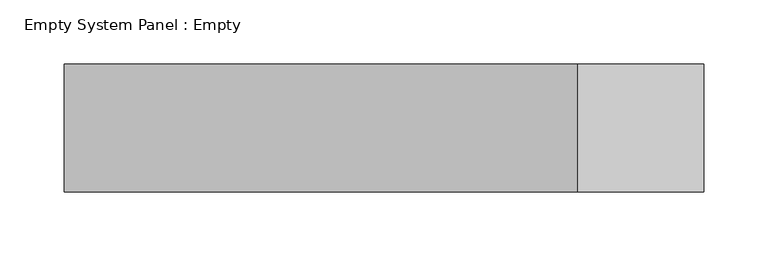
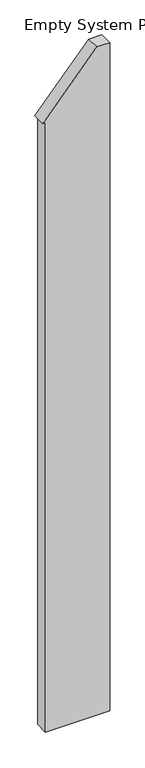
"""IFC4 building model written with IfcOpenShell, lengths in millimetres: plate geometry, Empty System Panel : Empty."""

from ifc_helpers import new_model, si_unit, frame, origin, place, context, project, spatial, polyline, outline, extrude, source, transform, mapped, element, save


def empty_system_panel_empty_ddcded80(model_context):
    return source(origin(), model_context, "Body", "SweptSolid", [
        extrude(outline(polyline([(0.0, -229.7473037), (0.0, 249.7473037), (5261.0527142, 249.7473037), (5261.0527142, 151.4126522), (4797.9257504, -249.7473037), (4797.9257504, -229.7473037), (0.0, -229.7473037)])), frame((0.0, -50.0, 0.0), z_axis=(0.0, 1.0, 0.0), x_axis=(0.0, 0.0, 1.0)), (0.0, 0.0, 1.0), 100.0),
    ])


if __name__ == "__main__":
    model = new_model("IFC4")
    model_context = context("Model", 3, world=origin())
    ifc_project = project(units=[si_unit("LENGTHUNIT", "METRE", prefix="MILLI")], contexts=[model_context])
    site = spatial("IfcSite", under=ifc_project)
    building = spatial("IfcBuilding", under=site)
    placement = place(None, origin())
    empty_system_panel_empty_shape = empty_system_panel_empty_ddcded80(model_context)
    element("IfcPlate", 1, ObjectType="Empty System Panel : Empty", at=placement, inside=building, context=model_context, shape_type="MappedRepresentation", body=[
        mapped(empty_system_panel_empty_shape, transform((0.0, 0.0, 0.0), x_axis=(1.0, 0.0, 0.0), y_axis=(0.0, 1.0, 0.0), z_axis=(0.0, 0.0, 1.0))),
    ])
    save(model, "model.ifc")
